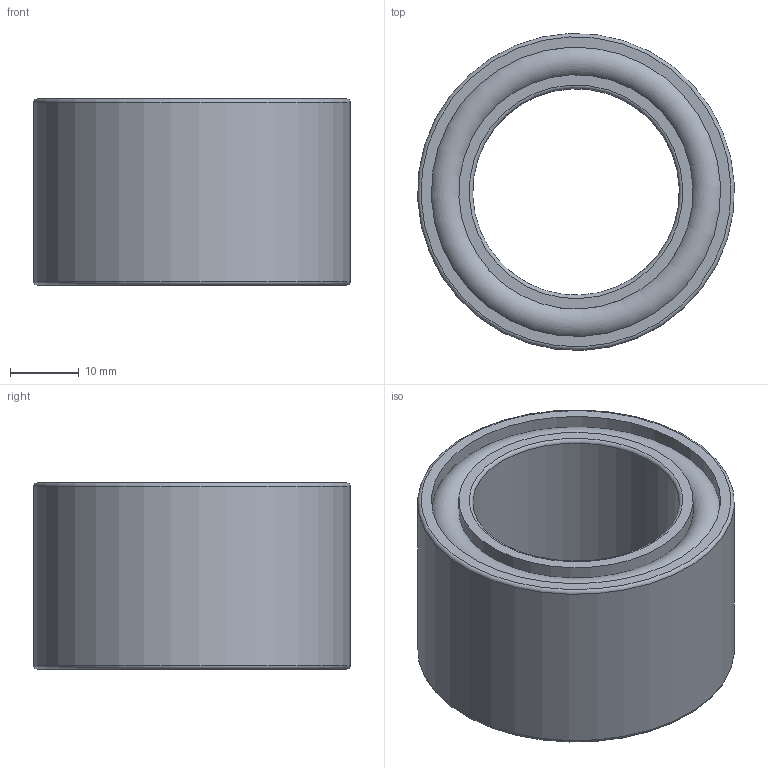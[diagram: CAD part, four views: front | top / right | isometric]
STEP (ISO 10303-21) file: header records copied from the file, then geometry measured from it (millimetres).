
FILE_DESCRIPTION(/* description */ (''),/* implementation_level */ '2;1');
FILE_NAME(/* name */ '300680 FP 442 Z.stp',/* time_stamp */ '2016-12-22T15:48:38+01:00',/* author */ (''),/* organization */ (''),/* preprocessor_version */ 'ST-DEVELOPER v15',/* originating_system */ 'SIEMENS PLM Software NX 8.5',/* authorisation */ '');
FILE_SCHEMA (('CONFIG_CONTROL_DESIGN'));
Length unit declared in the file: millimetre
Products named in the file (3): ATE0000080_01; ATE0000093_01; ATE0000095_01
Assembly tree (2 placements, depth 2):
  ATE0000095_01
    ATE0000093_01
    ATE0000080_01
Bounding box: 45.96 x 45.96 x 27 mm (x, y, z)
Volume: 19782 mm3; surface area: 20558.4 mm2
Topology: 3 solids, 3 shells, 72 faces, 157 edges, 103 vertices
Faces by surface type: plane 44, cylinder 22, torus 6
Full cylindrical faces by diameter (mm): 30 x1, 34 x3, 38 x1, 39 x1, 40 x1, 41 x2, 42 x4, 46 x1
Entity records: 2128 total; most frequent: DIRECTION 342, CARTESIAN_POINT 299, ORIENTED_EDGE 256, AXIS2_PLACEMENT_3D 139, EDGE_CURVE 128, EDGE_LOOP 112, VERTEX_POINT 96, ADVANCED_FACE 72
